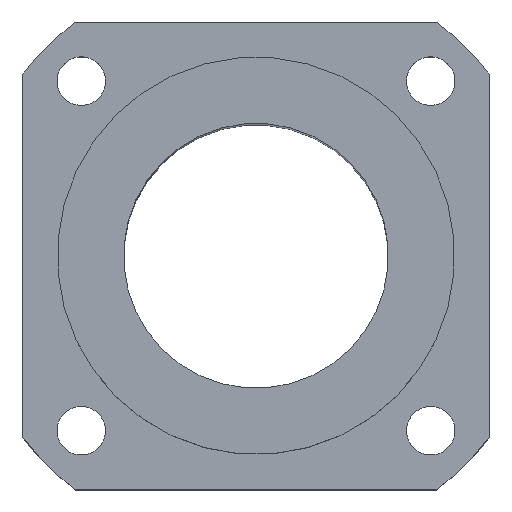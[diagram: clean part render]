
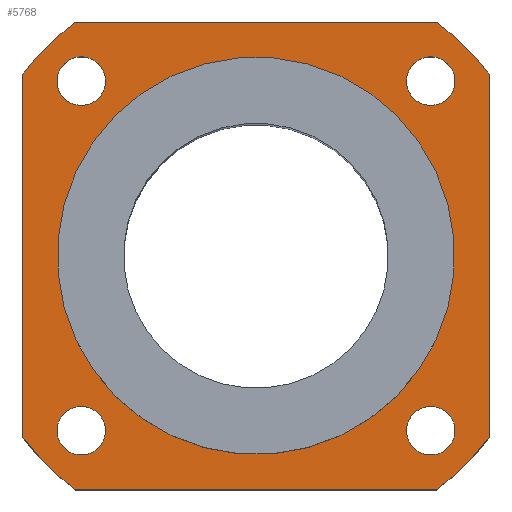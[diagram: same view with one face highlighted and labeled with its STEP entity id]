
A CAD part, top view. The second image highlights one B-rep face of the part: STEP entity #5768.
In plain terms, the highlighted planar face has unit normal (0, 0, 1).
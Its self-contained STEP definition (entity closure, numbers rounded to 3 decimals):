
#110=CIRCLE('',#6129,67.);
#111=CIRCLE('',#6131,67.);
#112=CIRCLE('',#6133,67.);
#113=CIRCLE('',#6135,67.);
#114=CIRCLE('',#6137,5.5);
#115=CIRCLE('',#6138,5.5);
#116=CIRCLE('',#6139,5.5);
#117=CIRCLE('',#6140,5.5);
#118=CIRCLE('',#6141,45.);
#530=ORIENTED_EDGE('',*,*,#2188,.F.);
#531=ORIENTED_EDGE('',*,*,#2189,.F.);
#532=ORIENTED_EDGE('',*,*,#2190,.F.);
#533=ORIENTED_EDGE('',*,*,#2191,.F.);
#534=ORIENTED_EDGE('',*,*,#2192,.T.);
#535=ORIENTED_EDGE('',*,*,#2180,.T.);
#536=ORIENTED_EDGE('',*,*,#2193,.T.);
#537=ORIENTED_EDGE('',*,*,#2176,.T.);
#538=ORIENTED_EDGE('',*,*,#2194,.T.);
#539=ORIENTED_EDGE('',*,*,#2186,.T.);
#540=ORIENTED_EDGE('',*,*,#2195,.T.);
#541=ORIENTED_EDGE('',*,*,#2183,.T.);
#542=ORIENTED_EDGE('',*,*,#2196,.T.);
#2176=EDGE_CURVE('',#3007,#3008,#110,.T.);
#2180=EDGE_CURVE('',#3010,#3009,#111,.T.);
#2183=EDGE_CURVE('',#3012,#3011,#112,.T.);
#2186=EDGE_CURVE('',#3014,#3013,#113,.T.);
#2188=EDGE_CURVE('',#3015,#3015,#114,.T.);
#2189=EDGE_CURVE('',#3016,#3016,#115,.T.);
#2190=EDGE_CURVE('',#3017,#3017,#116,.T.);
#2191=EDGE_CURVE('',#3018,#3018,#117,.T.);
#2192=EDGE_CURVE('',#3019,#3019,#118,.F.);
#2193=EDGE_CURVE('',#3009,#3007,#3519,.T.);
#2194=EDGE_CURVE('',#3008,#3014,#3520,.T.);
#2195=EDGE_CURVE('',#3013,#3012,#3521,.T.);
#2196=EDGE_CURVE('',#3011,#3010,#3522,.T.);
#3007=VERTEX_POINT('',#9120);
#3008=VERTEX_POINT('',#9121);
#3009=VERTEX_POINT('',#9126);
#3010=VERTEX_POINT('',#9128);
#3011=VERTEX_POINT('',#9132);
#3012=VERTEX_POINT('',#9134);
#3013=VERTEX_POINT('',#9138);
#3014=VERTEX_POINT('',#9140);
#3015=VERTEX_POINT('',#9144);
#3016=VERTEX_POINT('',#9146);
#3017=VERTEX_POINT('',#9148);
#3018=VERTEX_POINT('',#9150);
#3019=VERTEX_POINT('',#9152);
#3519=LINE('',#9153,#4192);
#3520=LINE('',#9154,#4193);
#3521=LINE('',#9155,#4194);
#3522=LINE('',#9156,#4195);
#4192=VECTOR('',#6687,1000.);
#4193=VECTOR('',#6688,1000.);
#4194=VECTOR('',#6689,1000.);
#4195=VECTOR('',#6690,1000.);
#4709=EDGE_LOOP('',(#530));
#4710=EDGE_LOOP('',(#531));
#4711=EDGE_LOOP('',(#532));
#4712=EDGE_LOOP('',(#533));
#4713=EDGE_LOOP('',(#534));
#4714=EDGE_LOOP('',(#535,#536,#537,#538,#539,#540,#541,#542));
#5130=FACE_BOUND('',#4709,.T.);
#5131=FACE_BOUND('',#4710,.T.);
#5132=FACE_BOUND('',#4711,.T.);
#5133=FACE_BOUND('',#4712,.T.);
#5134=FACE_BOUND('',#4713,.T.);
#5135=FACE_BOUND('',#4714,.T.);
#5503=PLANE('',#6136);
#5768=ADVANCED_FACE('',(#5130,#5131,#5132,#5133,#5134,#5135),#5503,.T.);
#6129=AXIS2_PLACEMENT_3D('',#9119,#6653,#6654);
#6131=AXIS2_PLACEMENT_3D('',#9127,#6660,#6661);
#6133=AXIS2_PLACEMENT_3D('',#9133,#6666,#6667);
#6135=AXIS2_PLACEMENT_3D('',#9139,#6672,#6673);
#6136=AXIS2_PLACEMENT_3D('',#9142,#6675,#6676);
#6137=AXIS2_PLACEMENT_3D('',#9143,#6677,#6678);
#6138=AXIS2_PLACEMENT_3D('',#9145,#6679,#6680);
#6139=AXIS2_PLACEMENT_3D('',#9147,#6681,#6682);
#6140=AXIS2_PLACEMENT_3D('',#9149,#6683,#6684);
#6141=AXIS2_PLACEMENT_3D('',#9151,#6685,#6686);
#6653=DIRECTION('',(0.,0.,1.));
#6654=DIRECTION('',(0.707,-0.707,0.));
#6660=DIRECTION('',(0.,0.,1.));
#6661=DIRECTION('',(0.707,-0.707,0.));
#6666=DIRECTION('',(0.,0.,1.));
#6667=DIRECTION('',(0.707,-0.707,0.));
#6672=DIRECTION('',(0.,0.,1.));
#6673=DIRECTION('',(0.707,-0.707,0.));
#6675=DIRECTION('',(0.,0.,1.));
#6676=DIRECTION('',(0.707,-0.707,0.));
#6677=DIRECTION('',(0.,0.,1.));
#6678=DIRECTION('',(0.707,-0.707,0.));
#6679=DIRECTION('',(0.,0.,1.));
#6680=DIRECTION('',(0.707,-0.707,0.));
#6681=DIRECTION('',(0.,0.,1.));
#6682=DIRECTION('',(0.707,-0.707,0.));
#6683=DIRECTION('',(0.,0.,1.));
#6684=DIRECTION('',(0.707,-0.707,0.));
#6685=DIRECTION('',(0.,0.,1.));
#6686=DIRECTION('',(0.707,-0.707,0.));
#6687=DIRECTION('',(0.,1.,0.));
#6688=DIRECTION('',(-1.,0.,0.));
#6689=DIRECTION('',(0.,-1.,0.));
#6690=DIRECTION('',(1.,0.,0.));
#9119=CARTESIAN_POINT('',(0.,0.,0.));
#9120=CARTESIAN_POINT('',(53.,40.988,0.));
#9121=CARTESIAN_POINT('',(40.988,53.,0.));
#9126=CARTESIAN_POINT('',(53.,-40.988,0.));
#9127=CARTESIAN_POINT('',(0.,0.,0.));
#9128=CARTESIAN_POINT('',(40.988,-53.,0.));
#9132=CARTESIAN_POINT('',(-40.988,-53.,0.));
#9133=CARTESIAN_POINT('',(0.,0.,0.));
#9134=CARTESIAN_POINT('',(-53.,-40.988,0.));
#9138=CARTESIAN_POINT('',(-53.,40.988,0.));
#9139=CARTESIAN_POINT('',(0.,0.,0.));
#9140=CARTESIAN_POINT('',(-40.988,53.,0.));
#9142=CARTESIAN_POINT('',(0.,0.,0.));
#9143=CARTESIAN_POINT('',(39.598,39.598,0.));
#9144=CARTESIAN_POINT('',(43.487,35.709,0.));
#9145=CARTESIAN_POINT('',(-39.598,39.598,0.));
#9146=CARTESIAN_POINT('',(-35.709,35.709,0.));
#9147=CARTESIAN_POINT('',(-39.598,-39.598,0.));
#9148=CARTESIAN_POINT('',(-35.709,-43.487,0.));
#9149=CARTESIAN_POINT('',(39.598,-39.598,0.));
#9150=CARTESIAN_POINT('',(43.487,-43.487,0.));
#9151=CARTESIAN_POINT('',(0.,0.,0.));
#9152=CARTESIAN_POINT('',(31.82,-31.82,0.));
#9153=CARTESIAN_POINT('',(53.,0.,0.));
#9154=CARTESIAN_POINT('',(0.,53.,0.));
#9155=CARTESIAN_POINT('',(-53.,0.,0.));
#9156=CARTESIAN_POINT('',(0.,-53.,0.));
